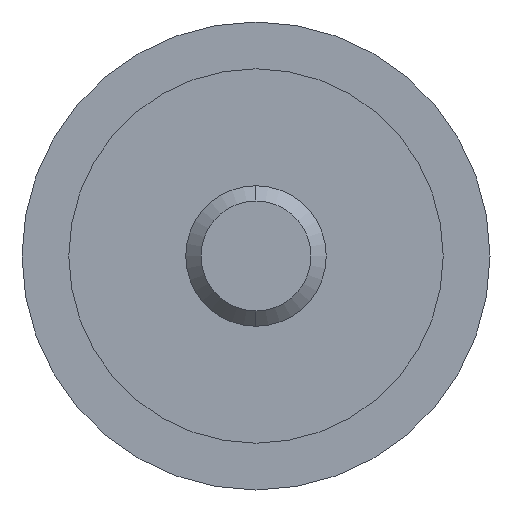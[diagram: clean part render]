
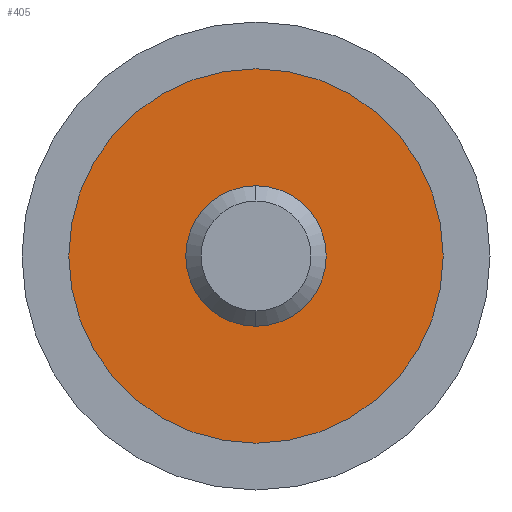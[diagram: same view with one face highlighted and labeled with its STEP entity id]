
A CAD part, left-side view. The second image highlights one B-rep face of the part: STEP entity #405.
In plain terms, the highlighted planar face has unit normal (-1, 0, 0).
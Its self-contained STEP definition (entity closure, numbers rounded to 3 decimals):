
#4 = ORIENTED_EDGE ( 'NONE', *, *, #11, .T. ) ;
#5 = CARTESIAN_POINT ( 'NONE',  ( -7.49, 0., 0. ) ) ;
#6 = PLANE ( 'NONE',  #318 ) ;
#11 = EDGE_CURVE ( 'NONE', #252, #525, #504, .T. ) ;
#59 = DIRECTION ( 'NONE',  ( 0., 0., 1. ) ) ;
#116 = DIRECTION ( 'NONE',  ( 0., 0., -1. ) ) ;
#122 = VERTEX_POINT ( 'NONE', #241 ) ;
#124 = DIRECTION ( 'NONE',  ( 0., 0., -1. ) ) ;
#128 = CARTESIAN_POINT ( 'NONE',  ( -7.49, 0., 0. ) ) ;
#161 = EDGE_LOOP ( 'NONE', ( #461, #239 ) ) ;
#174 = CARTESIAN_POINT ( 'NONE',  ( -7.49, 0., 8. ) ) ;
#239 = ORIENTED_EDGE ( 'NONE', *, *, #640, .F. ) ;
#241 = CARTESIAN_POINT ( 'NONE',  ( -7.49, 0., -3. ) ) ;
#250 = CARTESIAN_POINT ( 'NONE',  ( -7.49, 0., -8. ) ) ;
#252 = VERTEX_POINT ( 'NONE', #250 ) ;
#315 = CARTESIAN_POINT ( 'NONE',  ( -7.49, 0., 0. ) ) ;
#318 = AXIS2_PLACEMENT_3D ( 'NONE', #542, #326, #124 ) ;
#326 = DIRECTION ( 'NONE',  ( 1., 0., 0. ) ) ;
#328 = CARTESIAN_POINT ( 'NONE',  ( -7.49, 0., 0. ) ) ;
#357 = EDGE_LOOP ( 'NONE', ( #412, #4 ) ) ;
#376 = CARTESIAN_POINT ( 'NONE',  ( -7.49, 0., 3. ) ) ;
#390 = AXIS2_PLACEMENT_3D ( 'NONE', #315, #528, #59 ) ;
#405 = ADVANCED_FACE ( 'NONE', ( #433, #473 ), #6, .F. ) ;
#412 = ORIENTED_EDGE ( 'NONE', *, *, #543, .T. ) ;
#433 = FACE_OUTER_BOUND ( 'NONE', #357, .T. ) ;
#461 = ORIENTED_EDGE ( 'NONE', *, *, #552, .F. ) ;
#473 = FACE_BOUND ( 'NONE', #161, .T. ) ;
#481 = DIRECTION ( 'NONE',  ( 0., 0., -1. ) ) ;
#483 = CIRCLE ( 'NONE', #517, 3. ) ;
#488 = DIRECTION ( 'NONE',  ( 0., 0., 1. ) ) ;
#504 = CIRCLE ( 'NONE', #390, 8. ) ;
#517 = AXIS2_PLACEMENT_3D ( 'NONE', #128, #589, #116 ) ;
#519 = VERTEX_POINT ( 'NONE', #376 ) ;
#525 = VERTEX_POINT ( 'NONE', #174 ) ;
#528 = DIRECTION ( 'NONE',  ( -1., 0., 0. ) ) ;
#539 = DIRECTION ( 'NONE',  ( -1., 0., 0. ) ) ;
#540 = AXIS2_PLACEMENT_3D ( 'NONE', #328, #539, #488 ) ;
#542 = CARTESIAN_POINT ( 'NONE',  ( -7.49, 8., 0. ) ) ;
#543 = EDGE_CURVE ( 'NONE', #525, #252, #574, .T. ) ;
#552 = EDGE_CURVE ( 'NONE', #519, #122, #670, .T. ) ;
#574 = CIRCLE ( 'NONE', #540, 8. ) ;
#589 = DIRECTION ( 'NONE',  ( -1., 0., 0. ) ) ;
#640 = EDGE_CURVE ( 'NONE', #122, #519, #483, .T. ) ;
#644 = DIRECTION ( 'NONE',  ( -1., 0., 0. ) ) ;
#651 = AXIS2_PLACEMENT_3D ( 'NONE', #5, #644, #481 ) ;
#670 = CIRCLE ( 'NONE', #651, 3. ) ;
